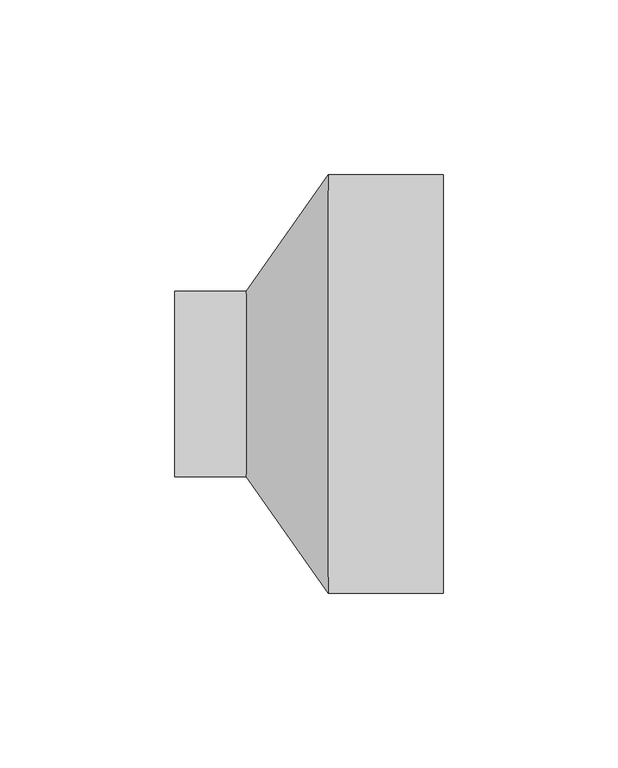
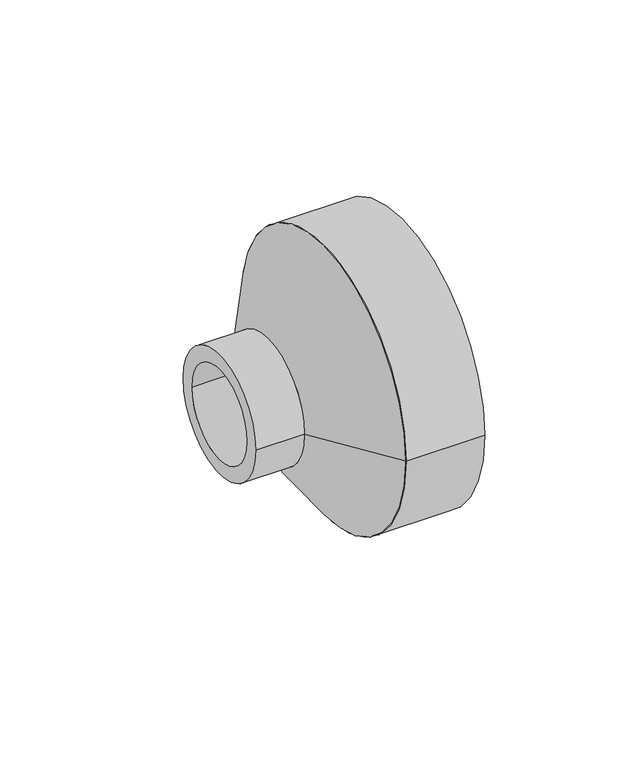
"""IFC4 building model written with IfcOpenShell, lengths in millimetres: pipe fitting geometry, 23_Муфта переходная ВВ : Белый цвет."""

from ifc_helpers import new_model, si_unit, point, frame, origin, origin_2d, place, context, project, spatial, polyline, circle_curve, trimmed, segment, composite_curve, outline, extrude, source, transform, mapped, element, save
from ifc_brep_helpers import plane_surface, revolved_surface, advanced_brep


def pipe_fitting_ea60cf70(model_context):
    return source(origin(), model_context, "Body", "SolidModel", [
        extrude(outline(composite_curve([segment(trimmed(circle_curve(origin_2d(), 60.0), [point((-60.0, 0.0))], [point((60.0, 0.0))], False, "CARTESIAN"), True, "CONTINUOUS"), segment(trimmed(circle_curve(origin_2d(), 60.0), [point((60.0, 0.0))], [point((-60.0, 0.0))], False, "CARTESIAN"), True, "CONTINUOUS")], self_intersect=False), holes=[composite_curve([segment(trimmed(circle_curve(origin_2d(), 45.0), [point((-45.0, 0.0))], [point((45.0, 0.0))], True, "CARTESIAN"), True, "CONTINUOUS"), segment(trimmed(circle_curve(origin_2d(), 45.0), [point((45.0, 0.0))], [point((-45.0, 0.0))], True, "CARTESIAN"), True, "CONTINUOUS")], self_intersect=False)]), frame((5.5, 0.0, 0.0), z_axis=(1.0, 0.0, 0.0), x_axis=(0.0, 1.0, 0.0)), (0.0, 0.0, 1.0), 33.0),
        extrude(outline(composite_curve([segment(trimmed(circle_curve(origin_2d(), 26.5), [point((-26.5, 0.0))], [point((26.5, 0.0))], False, "CARTESIAN"), True, "CONTINUOUS"), segment(trimmed(circle_curve(origin_2d(), 26.5), [point((26.5, 0.0))], [point((-26.5, 0.0))], False, "CARTESIAN"), True, "CONTINUOUS")], self_intersect=False), holes=[composite_curve([segment(trimmed(circle_curve(origin_2d(), 20.0), [point((-20.0, 0.0))], [point((20.0, 0.0))], True, "CARTESIAN"), True, "CONTINUOUS"), segment(trimmed(circle_curve(origin_2d(), 20.0), [point((20.0, 0.0))], [point((-20.0, 0.0))], True, "CARTESIAN"), True, "CONTINUOUS")], self_intersect=False)]), frame((-38.5, 0.0, 0.0), z_axis=(1.0, 0.0, 0.0), x_axis=(0.0, 1.0, 0.0)), (0.0, 0.0, 1.0), 20.5),
        advanced_brep(
        [(5.5, -60.0, 0.0), (5.5, 60.0, 0.0), (5.5, 45.0, 0.0), (5.5, -45.0, 0.0), (-18.0, -26.5, 0.0), (-18.0, 26.5, 0.0), (-18.0, -20.0, 0.0), (-18.0, 20.0, 0.0)],
        [
            (0, 1, circle_curve(frame((5.5, 0.0, 0.0), z_axis=(1.0, 0.0, 0.0), x_axis=(0.0, -1.0, 0.0)), 60.0)),
            (1, 0, circle_curve(frame((5.5, 0.0, 0.0), z_axis=(1.0, 0.0, 0.0), x_axis=(0.0, 1.0, 0.0)), 60.0)),
            (2, 3, circle_curve(frame((5.5, 0.0, 0.0), z_axis=(-1.0, 0.0, 0.0), x_axis=(0.0, -1.0, 0.0)), 45.0)),
            (3, 2, circle_curve(frame((5.5, 0.0, 0.0), z_axis=(-1.0, 0.0, 0.0), x_axis=(0.0, 1.0, 0.0)), 45.0)),
            (4, 5, circle_curve(frame((-18.0, 0.0, 0.0), z_axis=(-1.0, 0.0, 0.0), x_axis=(0.0, 1.0, 0.0)), 26.5)),
            (5, 4, circle_curve(frame((-18.0, 0.0, 0.0), z_axis=(-1.0, 0.0, 0.0), x_axis=(0.0, -1.0, 0.0)), 26.5)),
            (6, 7, circle_curve(frame((-18.0, 0.0, 0.0), z_axis=(1.0, 0.0, 0.0), x_axis=(0.0, -1.0, 0.0)), 20.0)),
            (7, 6, circle_curve(frame((-18.0, 0.0, 0.0), z_axis=(1.0, 0.0, 0.0), x_axis=(0.0, 1.0, 0.0)), 20.0)),
            (0, 4),
            (5, 1),
            (6, 3),
            (2, 7),
        ],
        [
            plane_surface(frame((5.5, 0.0, 0.0), z_axis=(1.0, 0.0, 0.0), x_axis=(0.0, 0.0, -1.0))),
            plane_surface(frame((-18.0, 0.0, 0.0), z_axis=(-1.0, 0.0, 0.0), x_axis=(0.0, 0.0, -1.0))),
            revolved_surface(polyline([(-18.0, 26.499999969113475, 0.0), (5.5, 60.0, 0.0)]), (-36.5895522, 0.0, 0.0), (1.0, 0.0, 0.0)),
            revolved_surface(polyline([(-18.0, -26.499999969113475, 0.0), (5.5, -60.0, 0.0)]), (-36.5895522, 0.0, 0.0), (1.0, 0.0, 0.0)),
            revolved_surface(polyline([(5.5, -45.0, 0.0), (-18.0, -20.0, 0.0)]), (-36.8, 0.0, 0.0), (1.0, 0.0, 0.0)),
        ],
        [
            (0, [[1, 2], [3, 4]]),
            (1, [[5, 6], [7, 8]]),
            (2, [[-1, 9, -6, 10]]),
            (3, [[-2, -10, -5, -9]]),
            (4, [[11, -3, 12, -7]]),
            (4, [[-11, -8, -12, -4]]),
        ],
    ),
    ])


if __name__ == "__main__":
    model = new_model("IFC4")
    model_context = context("Model", 3, world=origin())
    ifc_project = project(units=[si_unit("LENGTHUNIT", "METRE", prefix="MILLI")], contexts=[model_context])
    site = spatial("IfcSite", under=ifc_project)
    building = spatial("IfcBuilding", under=site)
    placement = place(None, origin())
    pipe_fitting_shape = pipe_fitting_ea60cf70(model_context)
    element("IfcPipeFitting", 1, ObjectType="23_Муфта переходная ВВ : Белый цвет", at=placement, inside=building, context=model_context, shape_type="MappedRepresentation", body=[
        mapped(pipe_fitting_shape, transform((0.0, 0.0, 0.0), x_axis=(1.0, 0.0, 0.0), y_axis=(0.0, 1.0, 0.0), z_axis=(0.0, 0.0, 1.0))),
    ])
    save(model, "model.ifc")
